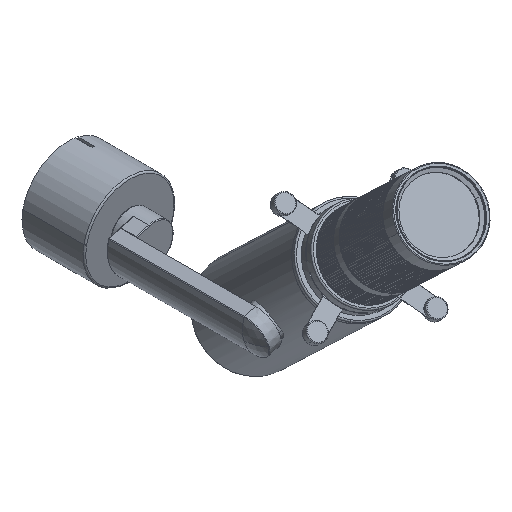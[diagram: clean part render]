
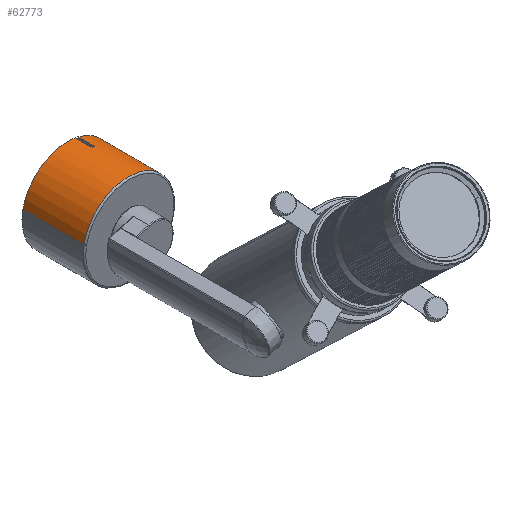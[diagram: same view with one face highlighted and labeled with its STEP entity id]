
A CAD part, isometric view. The second image highlights one B-rep face of the part: STEP entity #62773.
In plain terms, the highlighted cylindrical face has radius 32.5 mm (diameter 65 mm), a partial arc.
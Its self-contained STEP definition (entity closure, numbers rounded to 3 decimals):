
#1163 = VECTOR ( 'NONE', #25527, 1000. ) ;
#1466 = CARTESIAN_POINT ( 'NONE',  ( 92.137, 765.419, -4.922 ) ) ;
#1711 = ORIENTED_EDGE ( 'NONE', *, *, #46667, .F. ) ;
#1915 = ORIENTED_EDGE ( 'NONE', *, *, #29880, .F. ) ;
#1944 = CARTESIAN_POINT ( 'NONE',  ( 94.137, 733.567, -11.381 ) ) ;
#3234 = FACE_OUTER_BOUND ( 'NONE', #11828, .T. ) ;
#3635 = VERTEX_POINT ( 'NONE', #1944 ) ;
#6561 = CARTESIAN_POINT ( 'NONE',  ( 137.637, 765.419, -4.922 ) ) ;
#8861 = AXIS2_PLACEMENT_3D ( 'NONE', #81345, #118415, #27265 ) ;
#9705 = CIRCLE ( 'NONE', #96954, 32.5 ) ;
#10574 = CYLINDRICAL_SURFACE ( 'NONE', #30425, 32.5 ) ;
#10744 = EDGE_CURVE ( 'NONE', #3635, #119133, #105920, .T. ) ;
#11365 = CIRCLE ( 'NONE', #36577, 32.5 ) ;
#11828 = EDGE_LOOP ( 'NONE', ( #81164, #1915, #12919, #39641, #76676, #1711, #68594, #28414 ) ) ;
#12919 = ORIENTED_EDGE ( 'NONE', *, *, #20686, .T. ) ;
#16673 = DIRECTION ( 'NONE',  ( -1., 0., 0. ) ) ;
#19731 = EDGE_CURVE ( 'NONE', #96959, #100220, #78631, .T. ) ;
#20565 = CARTESIAN_POINT ( 'NONE',  ( 137.637, 757.984, 26.716 ) ) ;
#20686 = EDGE_CURVE ( 'NONE', #62381, #100220, #109354, .T. ) ;
#24591 = CARTESIAN_POINT ( 'NONE',  ( 125.637, 757.984, 26.716 ) ) ;
#25527 = DIRECTION ( 'NONE',  ( -1., 0., 0. ) ) ;
#26016 = CARTESIAN_POINT ( 'NONE',  ( 137.637, 797.271, 1.536 ) ) ;
#27265 = DIRECTION ( 'NONE',  ( 0., -0.168, 0.986 ) ) ;
#28414 = ORIENTED_EDGE ( 'NONE', *, *, #48718, .F. ) ;
#28731 = CARTESIAN_POINT ( 'NONE',  ( 137.637, 797.271, 1.536 ) ) ;
#29880 = EDGE_CURVE ( 'NONE', #62381, #119133, #38339, .T. ) ;
#30248 = CARTESIAN_POINT ( 'NONE',  ( 137.637, 765.419, -4.922 ) ) ;
#30425 = AXIS2_PLACEMENT_3D ( 'NONE', #1466, #47635, #84654 ) ;
#35975 = EDGE_CURVE ( 'NONE', #82856, #57157, #101910, .T. ) ;
#36577 = AXIS2_PLACEMENT_3D ( 'NONE', #6561, #53325, #90346 ) ;
#38339 = CIRCLE ( 'NONE', #84877, 32.5 ) ;
#39641 = ORIENTED_EDGE ( 'NONE', *, *, #19731, .F. ) ;
#39660 = CARTESIAN_POINT ( 'NONE',  ( 137.637, 733.567, -11.381 ) ) ;
#43930 = VECTOR ( 'NONE', #63076, 1000. ) ;
#46667 = EDGE_CURVE ( 'NONE', #82856, #51756, #11365, .T. ) ;
#47635 = DIRECTION ( 'NONE',  ( 1., 0., 0. ) ) ;
#48718 = EDGE_CURVE ( 'NONE', #3635, #57157, #9705, .T. ) ;
#50080 = DIRECTION ( 'NONE',  ( 1., 0., 0. ) ) ;
#51756 = VERTEX_POINT ( 'NONE', #56759 ) ;
#53325 = DIRECTION ( 'NONE',  ( 1., 0., 0. ) ) ;
#56759 = CARTESIAN_POINT ( 'NONE',  ( 137.637, 759.944, 27.113 ) ) ;
#57157 = VERTEX_POINT ( 'NONE', #64200 ) ;
#58025 = CARTESIAN_POINT ( 'NONE',  ( 94.137, 733.567, -11.381 ) ) ;
#62003 = CARTESIAN_POINT ( 'NONE',  ( 137.637, 757.984, 26.716 ) ) ;
#62381 = VERTEX_POINT ( 'NONE', #20565 ) ;
#62773 = ADVANCED_FACE ( 'NONE', ( #3234 ), #10574, .T. ) ;
#63076 = DIRECTION ( 'NONE',  ( -1., 0., 0. ) ) ;
#64200 = CARTESIAN_POINT ( 'NONE',  ( 94.137, 797.271, 1.536 ) ) ;
#68491 = DIRECTION ( 'NONE',  ( 0., -0.229, 0.973 ) ) ;
#68594 = ORIENTED_EDGE ( 'NONE', *, *, #35975, .T. ) ;
#71287 = CARTESIAN_POINT ( 'NONE',  ( 125.637, 759.944, 27.113 ) ) ;
#73153 = CARTESIAN_POINT ( 'NONE',  ( 125.637, 759.944, 27.113 ) ) ;
#76676 = ORIENTED_EDGE ( 'NONE', *, *, #106609, .T. ) ;
#77961 = VECTOR ( 'NONE', #110199, 1000. ) ;
#78631 = CIRCLE ( 'NONE', #8861, 32.5 ) ;
#78793 = DIRECTION ( 'NONE',  ( 1., 0., 0. ) ) ;
#81164 = ORIENTED_EDGE ( 'NONE', *, *, #10744, .T. ) ;
#81345 = CARTESIAN_POINT ( 'NONE',  ( 125.637, 765.419, -4.922 ) ) ;
#82856 = VERTEX_POINT ( 'NONE', #28731 ) ;
#84654 = DIRECTION ( 'NONE',  ( 0., 0.98, 0.199 ) ) ;
#84877 = AXIS2_PLACEMENT_3D ( 'NONE', #30248, #78793, #68491 ) ;
#90346 = DIRECTION ( 'NONE',  ( 0., 0.98, 0.199 ) ) ;
#91488 = VECTOR ( 'NONE', #50080, 1000. ) ;
#96954 = AXIS2_PLACEMENT_3D ( 'NONE', #99856, #16673, #117514 ) ;
#96959 = VERTEX_POINT ( 'NONE', #71287 ) ;
#99856 = CARTESIAN_POINT ( 'NONE',  ( 94.137, 765.419, -4.922 ) ) ;
#100220 = VERTEX_POINT ( 'NONE', #24591 ) ;
#101910 = LINE ( 'NONE', #26016, #43930 ) ;
#105920 = LINE ( 'NONE', #58025, #91488 ) ;
#106609 = EDGE_CURVE ( 'NONE', #96959, #51756, #110794, .T. ) ;
#109354 = LINE ( 'NONE', #62003, #1163 ) ;
#110199 = DIRECTION ( 'NONE',  ( 1., 0., 0. ) ) ;
#110794 = LINE ( 'NONE', #73153, #77961 ) ;
#117514 = DIRECTION ( 'NONE',  ( 0., -0.98, -0.199 ) ) ;
#118415 = DIRECTION ( 'NONE',  ( 1., 0., 0. ) ) ;
#119133 = VERTEX_POINT ( 'NONE', #39660 ) ;
